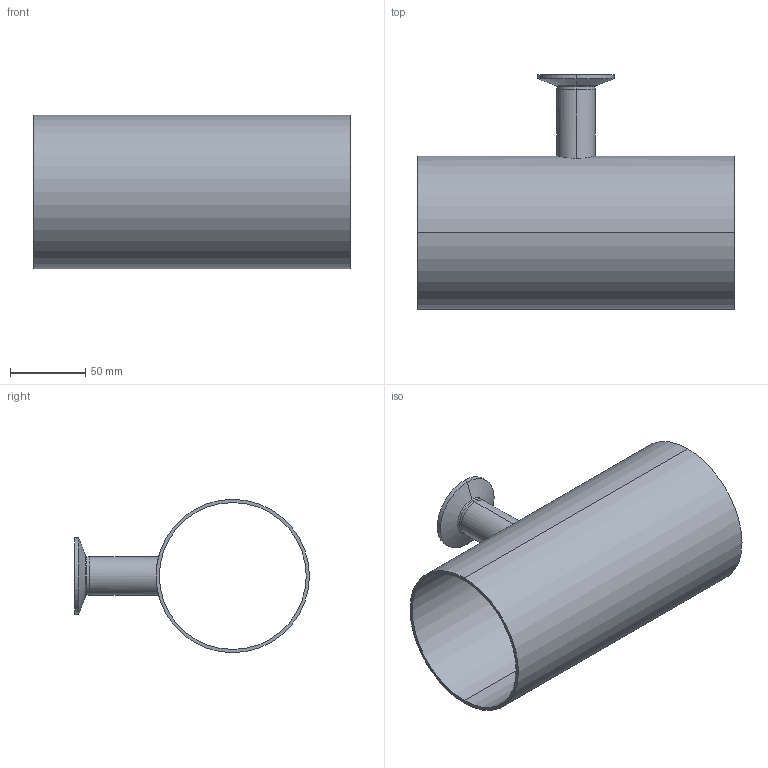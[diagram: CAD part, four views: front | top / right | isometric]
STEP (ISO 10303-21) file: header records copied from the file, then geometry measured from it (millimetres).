
FILE_DESCRIPTION (( 'STEP AP214' ), '1' );
FILE_NAME ('TE7RWWC6L4.0x1.0-...STEP', '2016-05-23T08:55:03', ( 'eran' ), ( '' ), 'SwSTEP 2.0', 'SolidWorks 2016', '' );
FILE_SCHEMA (( 'AUTOMOTIVE_DESIGN' ));
Length unit declared in the file: millimetre
Products named in the file (1): TE7RWWC6L4.0x1.0-..
Bounding box: 209.6 x 155.6 x 101.6 mm (x, y, z)
Volume: 151222.6 mm3; surface area: 143114.5 mm2
Topology: 2 solids, 2 shells, 36 faces, 88 edges, 58 vertices
Faces by surface type: cylinder 14, bspline 10, plane 6, cone 6
Entity records: 1839 total; most frequent: CARTESIAN_POINT 935, DIRECTION 190, ORIENTED_EDGE 176, EDGE_CURVE 88, AXIS2_PLACEMENT_3D 85, CIRCLE 58, VERTEX_POINT 58, EDGE_LOOP 44
